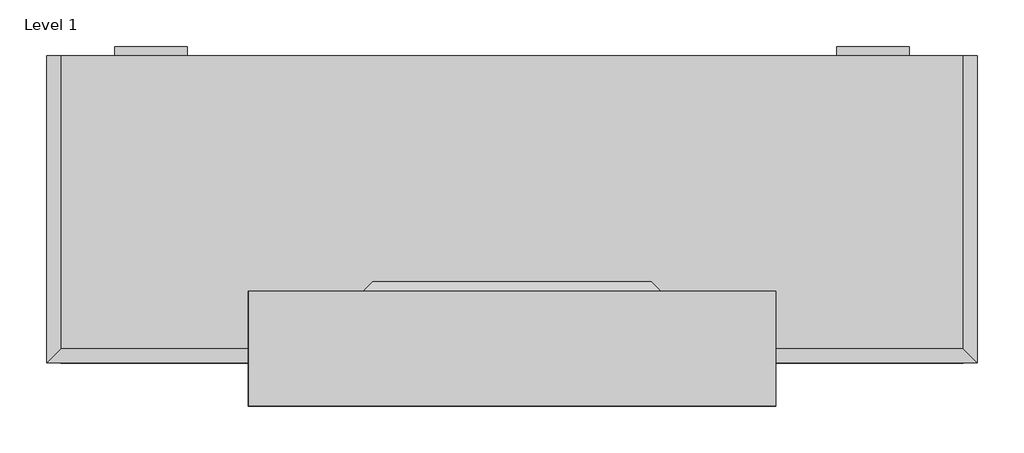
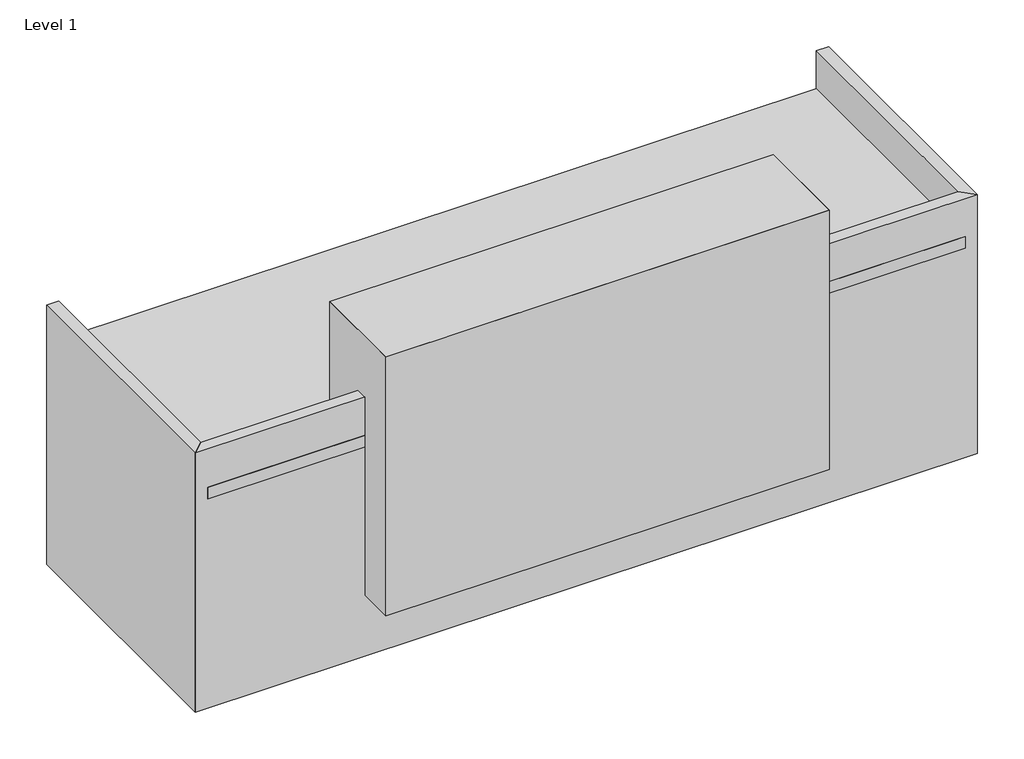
# One storey: 6 proxies.
"""IFC4 building model written with IfcOpenShell, lengths in millimetres."""

from ifc_helpers import new_model, si_unit, origin, place, context, project, spatial, transform, mapped, element, save
from components import generic_models_30864bc3, generic_models_16f8150b, generic_models_c95edcf3

model = new_model("IFC4")

# Units and contexts
model_context = context("Model", 3, world=origin())
ifc_project = project(units=[si_unit("LENGTHUNIT", "METRE", prefix="MILLI")], contexts=[model_context])

# Site, building, storey
site = spatial("IfcSite", under=ifc_project)
building = spatial("IfcBuilding", under=site)
storey = spatial("IfcBuildingStorey", under=building, Name="Level 1", Elevation=0.0)

# Proxies
placement = place(None, origin())
generic_models_shape = generic_models_30864bc3(model_context)
element("IfcBuildingElementProxy", 1, Name="SALUTE^ADMIN_34x55 STRAIGHT TRANS-PARTS SOLID", ObjectType="SALUTE^ADMIN_34x55 STRAIGHT TRANS-PARTS SOLID", at=placement, inside=storey, context=model_context, shape_type="MappedRepresentation", body=[
    mapped(generic_models_shape, transform((1898.65, -927.1, 1066.8), x_axis=(1.0, 0.0, 0.0), y_axis=(0.0, 0.0, 1.0), z_axis=(0.0, -1.0, 0.0))),
])
generic_models_2_shape = generic_models_16f8150b(model_context)
element("IfcBuildingElementProxy", 2, Name="HAFELE 102.12.004-7_5 INCH", ObjectType="HAFELE 102.12.004-7_5 INCH", at=placement, inside=storey, context=model_context, shape_type="MappedRepresentation", body=[
    mapped(generic_models_2_shape, transform((2326.3225, -28.575, 297.18), x_axis=(-1.0, 0.0, 0.0), y_axis=(0.0, 0.0, 1.0), z_axis=(0.0, 1.0, 0.0))),
])
element("IfcBuildingElementProxy", 3, Name="HAFELE 102.12.004-7_5 INCH", ObjectType="HAFELE 102.12.004-7_5 INCH", at=placement, inside=storey, context=model_context, shape_type="MappedRepresentation", body=[
    mapped(generic_models_2_shape, transform((2326.3225, -28.575, 640.87375), x_axis=(-1.0, 0.0, 0.0), y_axis=(0.0, 0.0, 1.0), z_axis=(0.0, 1.0, 0.0))),
])
element("IfcBuildingElementProxy", 4, Name="HAFELE 102.12.004-7_5 INCH", ObjectType="HAFELE 102.12.004-7_5 INCH", at=placement, inside=storey, context=model_context, shape_type="MappedRepresentation", body=[
    mapped(generic_models_2_shape, transform((2326.3225, -28.575, 469.026875), x_axis=(-1.0, 0.0, 0.0), y_axis=(0.0, 0.0, 1.0), z_axis=(0.0, 1.0, 0.0))),
])
element("IfcBuildingElementProxy", 5, Name="HAFELE 102.12.004-7_5 INCH", ObjectType="HAFELE 102.12.004-7_5 INCH", at=placement, inside=storey, context=model_context, shape_type="MappedRepresentation", body=[
    mapped(generic_models_2_shape, transform((414.9725, -28.575, 640.87375), x_axis=(-1.0, 0.0, 0.0), y_axis=(0.0, 0.0, 1.0), z_axis=(0.0, 1.0, 0.0))),
])
generic_models_3_shape = generic_models_c95edcf3(model_context)
element("IfcBuildingElementProxy", 6, Name="SALUTE^RECEPT_32x97 BASE-PARTS SOLID", ObjectType="SALUTE^RECEPT_32x97 BASE-PARTS SOLID", at=placement, inside=storey, context=model_context, shape_type="MappedRepresentation", body=[
    mapped(generic_models_3_shape, transform((0.0, -774.7, 0.0), x_axis=(1.0, 0.0, 0.0), y_axis=(0.0, 0.0, 1.0), z_axis=(0.0, -1.0, 0.0))),
])

save(model, "model.ifc")
